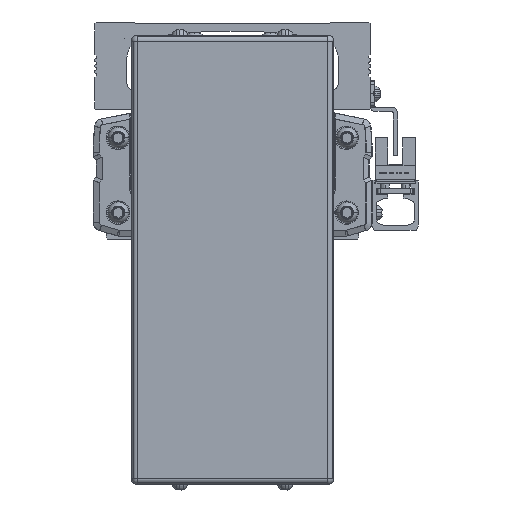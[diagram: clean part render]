
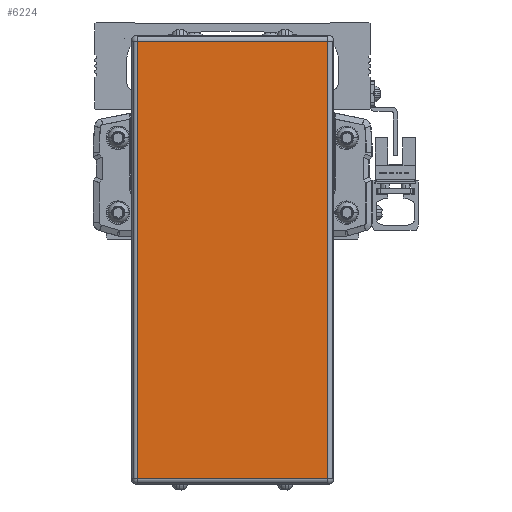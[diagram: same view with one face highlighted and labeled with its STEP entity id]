
A CAD part, front view. The second image highlights one B-rep face of the part: STEP entity #6224.
In plain terms, the highlighted planar face has unit normal (0, -1, 0).
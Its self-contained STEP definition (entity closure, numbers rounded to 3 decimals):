
#6224=ADVANCED_FACE('',(#13330),#13331,.T.);
#13330=FACE_OUTER_BOUND('',#22151,.T.);
#13331=PLANE('',#22152);
#22151=EDGE_LOOP('',(#41384,#41385,#41386,#41387));
#22152=AXIS2_PLACEMENT_3D('',#41388,#41389,#41390);
#41384=ORIENTED_EDGE('',*,*,#52840,.F.);
#41385=ORIENTED_EDGE('',*,*,#55888,.F.);
#41386=ORIENTED_EDGE('',*,*,#56924,.F.);
#41387=ORIENTED_EDGE('',*,*,#56925,.F.);
#41388=CARTESIAN_POINT('',(0.,-189.778,-50.1));
#41389=DIRECTION('',(0.0,-1.0,0.));
#41390=DIRECTION('',(1.0,0.0,0.0));
#52840=EDGE_CURVE('',#64591,#64593,#64594,.T.);
#55888=EDGE_CURVE('',#68990,#64591,#68992,.T.);
#56924=EDGE_CURVE('',#70311,#68990,#70312,.T.);
#56925=EDGE_CURVE('',#64593,#70311,#70313,.T.);
#64591=VERTEX_POINT('',#81037);
#64593=VERTEX_POINT('',#81039);
#64594=LINE('',#81040,#81041);
#68990=VERTEX_POINT('',#87579);
#68992=LINE('',#87581,#87582);
#70311=VERTEX_POINT('',#89440);
#70312=LINE('',#89441,#89442);
#70313=LINE('',#89443,#89444);
#81037=CARTESIAN_POINT('',(32.5,-189.778,24.5));
#81039=CARTESIAN_POINT('',(32.5,-189.778,-124.7));
#81040=CARTESIAN_POINT('',(32.5,-189.778,-50.1));
#81041=VECTOR('',#96362,10.0);
#87579=CARTESIAN_POINT('',(-32.5,-189.778,24.5));
#87581=CARTESIAN_POINT('',(0.,-189.778,24.5));
#87582=VECTOR('',#99922,10.0);
#89440=CARTESIAN_POINT('',(-32.5,-189.778,-124.7));
#89441=CARTESIAN_POINT('',(-32.5,-189.778,-50.1));
#89442=VECTOR('',#101145,10.0);
#89443=CARTESIAN_POINT('',(0.,-189.778,-124.7));
#89444=VECTOR('',#101146,10.0);
#96362=DIRECTION('',(0.0,0.,-1.0));
#99922=DIRECTION('',(1.0,0.0,0.0));
#101145=DIRECTION('',(0.0,0.,1.0));
#101146=DIRECTION('',(-1.0,0.0,0.0));
